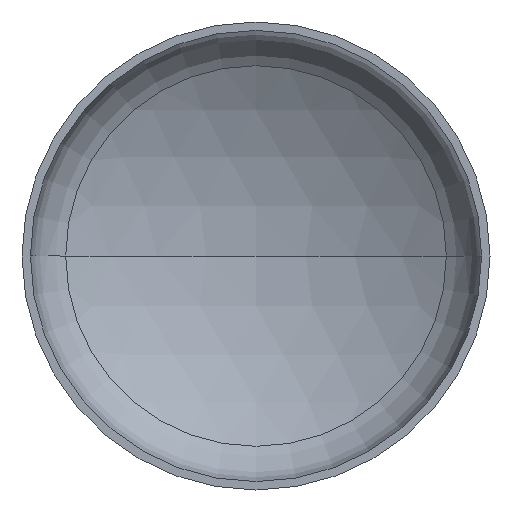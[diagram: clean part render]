
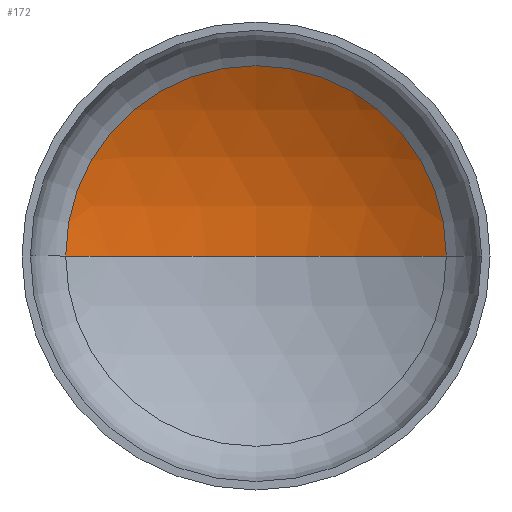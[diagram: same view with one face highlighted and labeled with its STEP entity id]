
A CAD part, front view. The second image highlights one B-rep face of the part: STEP entity #172.
In plain terms, the highlighted spherical face has radius 2400 mm.
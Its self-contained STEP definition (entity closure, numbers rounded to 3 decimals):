
#1 = DIRECTION ( 'NONE',  ( 0., 0., -1. ) ) ;
#6 = DIRECTION ( 'NONE',  ( 0., 0., 1. ) ) ;
#7 = CARTESIAN_POINT ( 'NONE',  ( 0., -1550.75, 0. ) ) ;
#15 = AXIS2_PLACEMENT_3D ( 'NONE', #183, #219, #185 ) ;
#17 = AXIS2_PLACEMENT_3D ( 'NONE', #7, #6, #199 ) ;
#18 = AXIS2_PLACEMENT_3D ( 'NONE', #72, #1, #111 ) ;
#21 = AXIS2_PLACEMENT_3D ( 'NONE', #151, #154, #157 ) ;
#34 = VERTEX_POINT ( 'NONE', #268 ) ;
#57 = VERTEX_POINT ( 'NONE', #358 ) ;
#59 = EDGE_CURVE ( 'NONE', #264, #57, #379, .T. ) ;
#60 = EDGE_CURVE ( 'NONE', #34, #264, #79, .T. ) ;
#61 = EDGE_CURVE ( 'NONE', #34, #57, #229, .T. ) ;
#72 = CARTESIAN_POINT ( 'NONE',  ( 0., -1550.75, 0. ) ) ;
#79 = CIRCLE ( 'NONE', #18, 2400. ) ;
#111 = DIRECTION ( 'NONE',  ( -1., 0., 0. ) ) ;
#124 = EDGE_LOOP ( 'NONE', ( #324, #357, #233 ) ) ;
#145 = CARTESIAN_POINT ( 'NONE',  ( 1219.794, 516.157, 0. ) ) ;
#151 = CARTESIAN_POINT ( 'NONE',  ( 0., 516.157, 0. ) ) ;
#154 = DIRECTION ( 'NONE',  ( 0., -1., 0. ) ) ;
#157 = DIRECTION ( 'NONE',  ( 1., 0., 0. ) ) ;
#172 = ADVANCED_FACE ( 'NONE', ( #221 ), #363, .F. ) ;
#183 = CARTESIAN_POINT ( 'NONE',  ( 0., -1550.75, 0. ) ) ;
#185 = DIRECTION ( 'NONE',  ( -1., 0., 0. ) ) ;
#199 = DIRECTION ( 'NONE',  ( 1., 0., 0. ) ) ;
#219 = DIRECTION ( 'NONE',  ( 0., 0., -1. ) ) ;
#221 = FACE_OUTER_BOUND ( 'NONE', #124, .T. ) ;
#229 = CIRCLE ( 'NONE', #17, 2400. ) ;
#233 = ORIENTED_EDGE ( 'NONE', *, *, #59, .T. ) ;
#264 = VERTEX_POINT ( 'NONE', #145 ) ;
#268 = CARTESIAN_POINT ( 'NONE',  ( 0., 849.25, 0. ) ) ;
#324 = ORIENTED_EDGE ( 'NONE', *, *, #61, .F. ) ;
#357 = ORIENTED_EDGE ( 'NONE', *, *, #60, .T. ) ;
#358 = CARTESIAN_POINT ( 'NONE',  ( -1219.794, 516.157, 0. ) ) ;
#363 = SPHERICAL_SURFACE ( 'NONE', #15, 2400. ) ;
#379 = CIRCLE ( 'NONE', #21, 1219.794 ) ;
